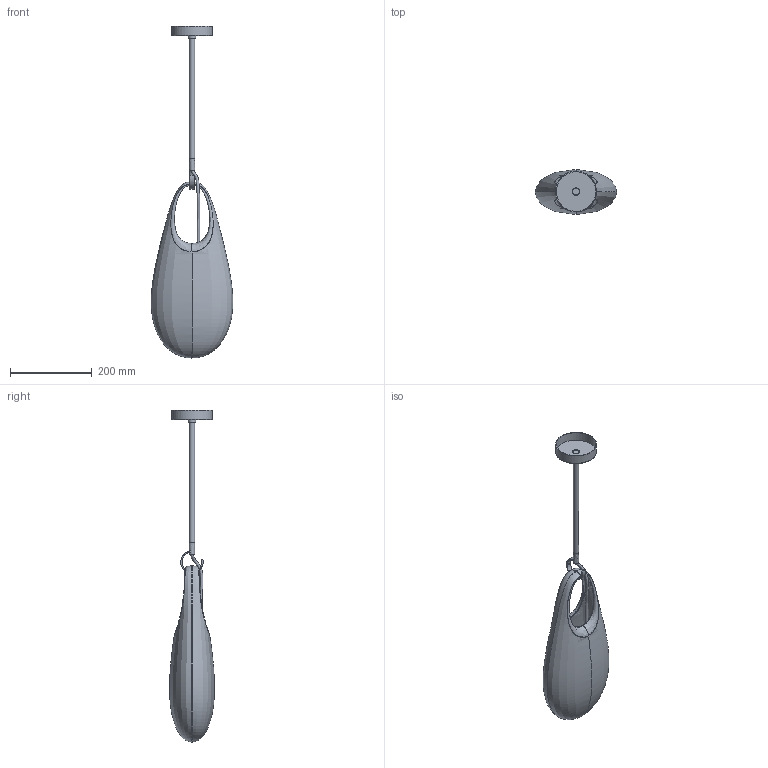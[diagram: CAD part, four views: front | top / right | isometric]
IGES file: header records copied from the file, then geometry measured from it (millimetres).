
Global section: file name: /Users/danielszollosi/Documents/SkLO/Sklo.com/3D models/WEB 3D Models/WEB 3D Models EU/SkLO_Hold_18_Pendant_LT263_3D_EU.igs; native system: Rhinoceros ( Sep 24 2023 ); preprocessor: Trout Lake IGES 012 Sep 24 2023; date: 241021.215504; units: millimetre
Bounding box: 199.99 x 110.25 x 813.47 mm (x, y, z)
Surface area: 366417 mm2 (no closed solid volume)
Topology: 0 solids, 0 shells, 452 faces, 4505 edges, 4437 vertices
Faces by surface type: bspline 452
